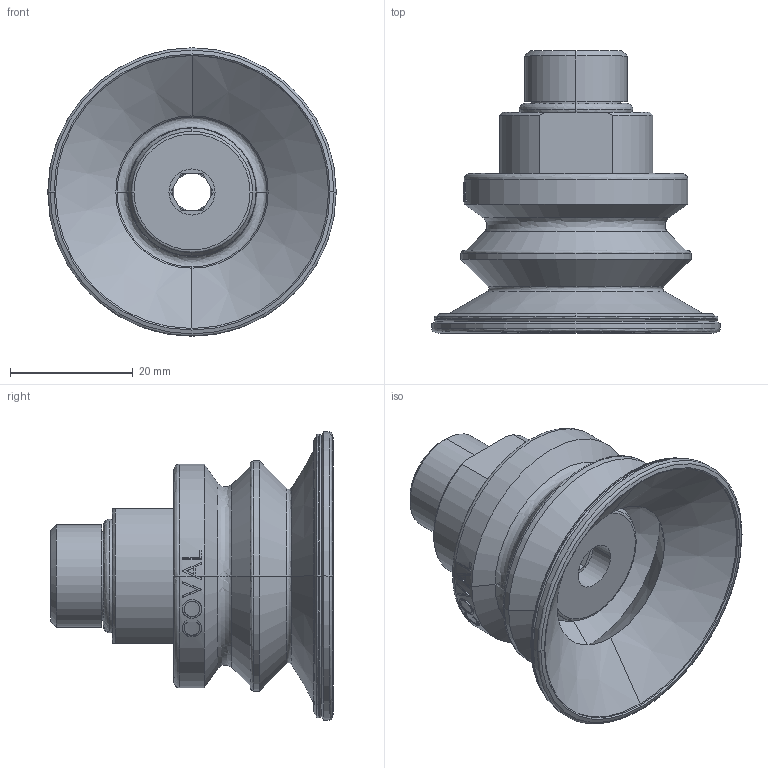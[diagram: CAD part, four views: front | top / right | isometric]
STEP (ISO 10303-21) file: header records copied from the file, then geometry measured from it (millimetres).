
FILE_DESCRIPTION (( 'STEP AP214' ), '1' );
FILE_NAME ('SAB-40-G3-8AG.STEP', '2023-03-07T01:16:07', ( 'Windows User' ), ( 'P R C' ), 'SwSTEP 2.0', 'SolidWorks 2019', '' );
FILE_SCHEMA (( 'AUTOMOTIVE_DESIGN' ));
Length unit declared in the file: millimetre
Products named in the file (1): SAB-40-G3-8AG
Bounding box: 47 x 46 x 47 mm (x, y, z)
Volume: 20536.4 mm3; surface area: 12752.3 mm2
Topology: 3 solids, 3 shells, 178 faces, 420 edges, 261 vertices
Faces by surface type: bspline 61, plane 41, cylinder 39, cone 37
Entity records: 16531 total; most frequent: CARTESIAN_POINT 10631, ORIENTED_EDGE 840, DIRECTION 765, EDGE_CURVE 420, AXIS2_PLACEMENT_3D 303, VERTEX_POINT 261, EDGE_LOOP 197, CIRCLE 185
